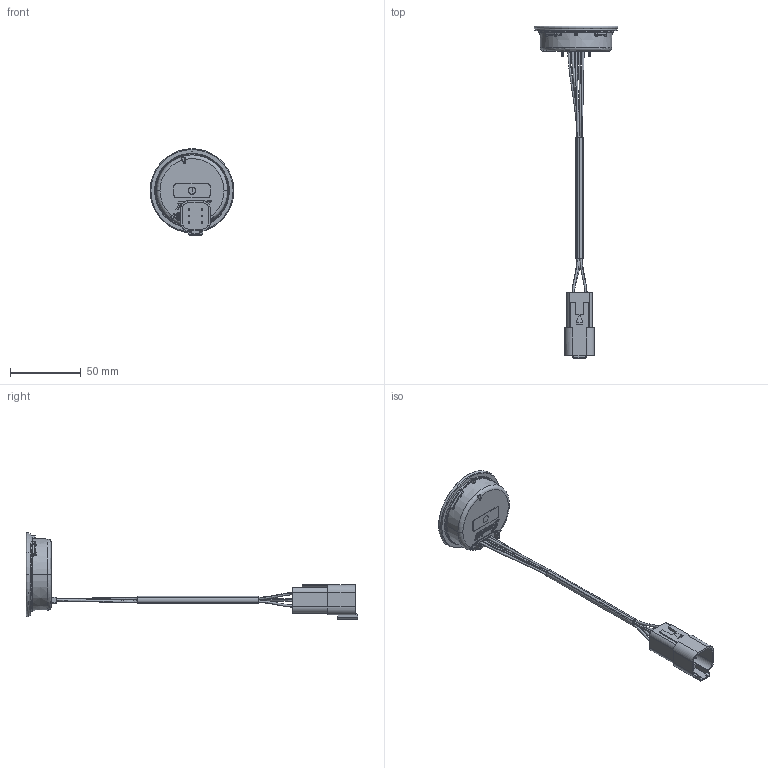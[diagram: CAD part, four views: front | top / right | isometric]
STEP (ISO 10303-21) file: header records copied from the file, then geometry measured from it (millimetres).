
FILE_DESCRIPTION((''),'2;1');
FILE_NAME('TEYYF33001_ASM','2024-01-10T',('arichard'),(''),'PRO/ENGINEER BY PARAMETRIC TECHNOLOGY CORPORATION, 2016100','PRO/ENGINEER BY PARAMETRIC TECHNOLOGY CORPORATION, 2016100','');
FILE_SCHEMA(('CONFIG_CONTROL_DESIGN'));
Products named in the file (20): T10506-231; T13904-6_ASM; T15707-X; T15707-X_SHIP_ASM; T19911-6_SHIP_ASM; T11110; T1FC1023_INSTALLED_ASM; T1ZZ1023-3_ASM; DEFAULT-3029; DEFAULT-4251; DEFAULT-7055; AW6P; DEFAULT-4255_ASM; AT04-6P_ASM; T18911-XWIRES; T18911-X_ASM; T19921-3_ASM; SSS2427-34_TEYYF33001; TE-F33G-X-XXX_RTV; TEYYF33001_ASM
Assembly tree (24 placements, depth 6):
  TEYYF33001_ASM
    T19911-6_SHIP_ASM
      T13904-6_ASM
        T10506-231
      T15707-X_SHIP_ASM
        T15707-X
    T19921-3_ASM
      T11110
      T1ZZ1023-3_ASM
        T1FC1023_INSTALLED_ASM
      T18911-X_ASM
        AT04-6P_ASM
          DEFAULT-4255_ASM
            DEFAULT-3029
            DEFAULT-4251
            DEFAULT-7055  x6
            AW6P
        T18911-XWIRES
    SSS2427-34_TEYYF33001
    TE-F33G-X-XXX_RTV
Bounding box: 59.18 x 233.95 x 61.02 mm (x, y, z)
Volume: 25274.2 mm3; surface area: 33596.1 mm2
Topology: 14 solids, 14 shells, 1128 faces, 2758 edges, 1700 vertices
Faces by surface type: plane 489, cylinder 285, bspline 181, torus 120, sphere 25, cone 18, extrusion 10
Entity records: 37569 total; most frequent: CARTESIAN_POINT 14358, ORIENTED_EDGE 4874, DIRECTION 4640, EDGE_CURVE 2437, AXIS2_PLACEMENT_3D 1637, VERTEX_POINT 1525, VECTOR 1366, LINE 1356
